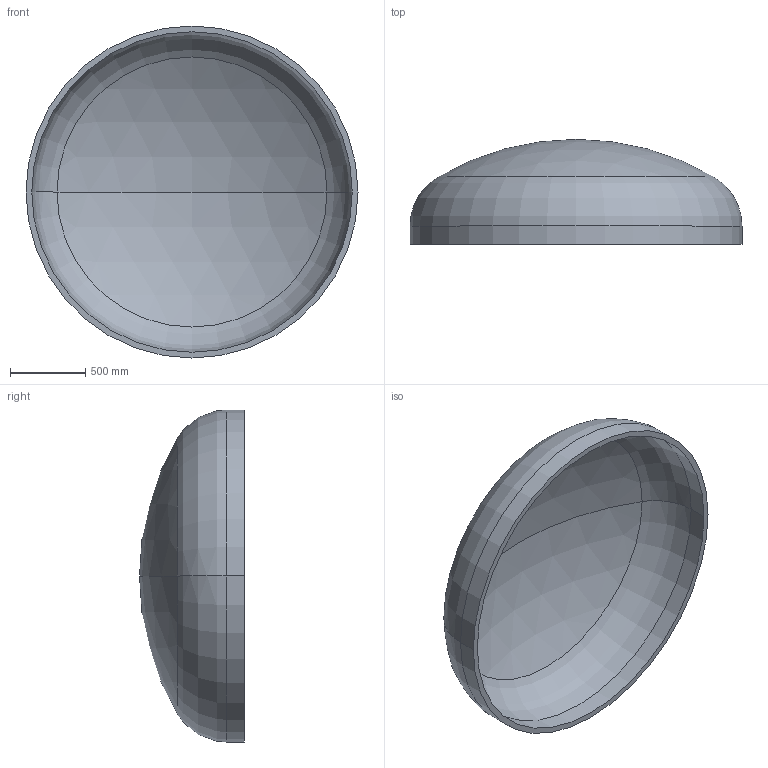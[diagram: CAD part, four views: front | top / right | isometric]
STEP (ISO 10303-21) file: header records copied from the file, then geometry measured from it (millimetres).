
FILE_DESCRIPTION (( 'STEP AP203' ), '1' );
FILE_NAME ('DIN 28013 Korbbogenform_-_Boden DIN 28013 - 2200 x 120 - I - s=38.step', '2016-07-01T14:34:03', ( '' ), ( '' ), 'SwSTEP 2.0', 'SolidWorks 2013', '' );
FILE_SCHEMA (( 'CONFIG_CONTROL_DESIGN' ));
Length unit declared in the file: millimetre
Products named in the file (1): DIN 28013 Korbbogenform_-_Boden DIN 28013 - 2200 x 120 - I - s=38
Bounding box: 2200 x 695.25 x 2200 mm (x, y, z)
Volume: 226664890.5 mm3; surface area: 12190852.1 mm2
Topology: 1 solids, 1 shells, 13 faces, 24 edges, 14 vertices
Faces by surface type: torus 4, cylinder 4, sphere 4, plane 1
Entity records: 407 total; most frequent: DIRECTION 72, CARTESIAN_POINT 52, ORIENTED_EDGE 48, AXIS2_PLACEMENT_3D 34, EDGE_CURVE 24, CIRCLE 20, VERTEX_POINT 14, EDGE_LOOP 14
